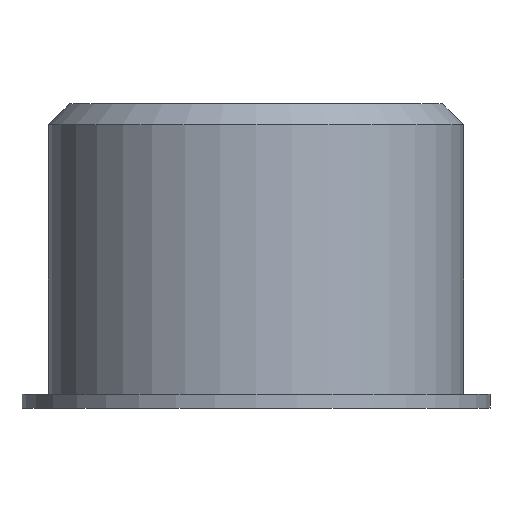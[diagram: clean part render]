
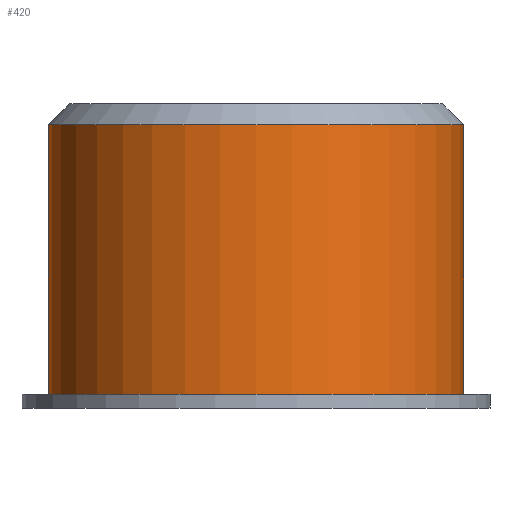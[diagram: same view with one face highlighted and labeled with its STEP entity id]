
A CAD part, front view. The second image highlights one B-rep face of the part: STEP entity #420.
In plain terms, the highlighted cylindrical face has radius 15.075 mm (diameter 30.15 mm), a full revolution.
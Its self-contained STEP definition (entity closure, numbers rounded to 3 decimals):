
#17=CYLINDRICAL_SURFACE('',#473,15.075);
#35=FACE_BOUND('',#148,.T.);
#111=FACE_OUTER_BOUND('',#147,.T.);
#147=EDGE_LOOP('',(#326));
#148=EDGE_LOOP('',(#327));
#177=CIRCLE('',#456,15.075);
#179=CIRCLE('',#461,15.075);
#208=VERTEX_POINT('',#670);
#210=VERTEX_POINT('',#677);
#247=EDGE_CURVE('',#208,#208,#177,.T.);
#249=EDGE_CURVE('',#210,#210,#179,.T.);
#326=ORIENTED_EDGE('',*,*,#247,.F.);
#327=ORIENTED_EDGE('',*,*,#249,.F.);
#420=ADVANCED_FACE('',(#111,#35),#17,.T.);
#456=AXIS2_PLACEMENT_3D('',#671,#533,#534);
#461=AXIS2_PLACEMENT_3D('',#678,#543,#544);
#473=AXIS2_PLACEMENT_3D('',#716,#575,#576);
#533=DIRECTION('center_axis',(0.,0.,-1.));
#534=DIRECTION('ref_axis',(-1.,0.,0.));
#543=DIRECTION('center_axis',(0.,0.,1.));
#544=DIRECTION('ref_axis',(-1.,0.,0.));
#575=DIRECTION('center_axis',(0.,0.,1.));
#576=DIRECTION('ref_axis',(-1.,0.,0.));
#670=CARTESIAN_POINT('',(15.075,0.,0.));
#671=CARTESIAN_POINT('Origin',(0.,0.,0.));
#677=CARTESIAN_POINT('',(15.075,0.,19.6));
#678=CARTESIAN_POINT('Origin',(0.,0.,19.6));
#716=CARTESIAN_POINT('Origin',(0.,0.,0.));
